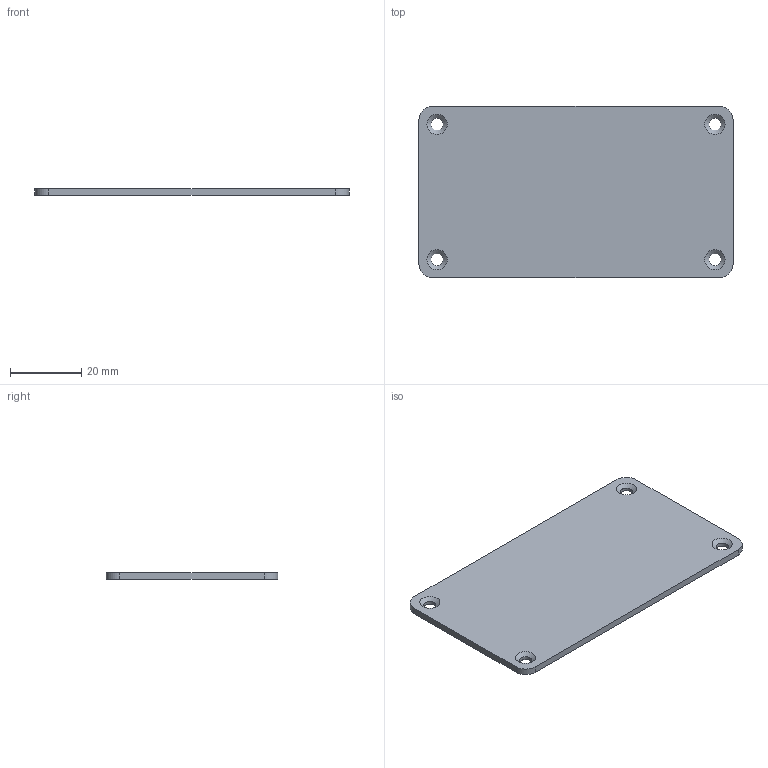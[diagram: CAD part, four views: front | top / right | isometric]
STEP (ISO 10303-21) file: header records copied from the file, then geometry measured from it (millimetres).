
FILE_DESCRIPTION (( 'STEP AP203' ), '1' );
FILE_NAME ('Battery Cover.step', '2015-03-14T23:35:34', ( '' ), ( '' ), 'SwSTEP 2.0', 'SolidWorks 2013', '' );
FILE_SCHEMA (( 'CONFIG_CONTROL_DESIGN' ));
Length unit declared in the file: inch
Products named in the file (1): Battery Cover
Bounding box: 88.39 x 48.26 x 1.91 mm (x, y, z)
Volume: 8002.8 mm3; surface area: 9001.3 mm2
Topology: 1 solids, 1 shells, 18 faces, 44 edges, 28 vertices
Faces by surface type: cylinder 8, plane 6, cone 4
Full cylindrical faces by diameter (mm): 3.454 x4
Entity records: 591 total; most frequent: DIRECTION 94, CARTESIAN_POINT 83, ORIENTED_EDGE 72, AXIS2_PLACEMENT_3D 39, EDGE_CURVE 36, EDGE_LOOP 34, VERTEX_POINT 28, FACE_OUTER_BOUND 22
